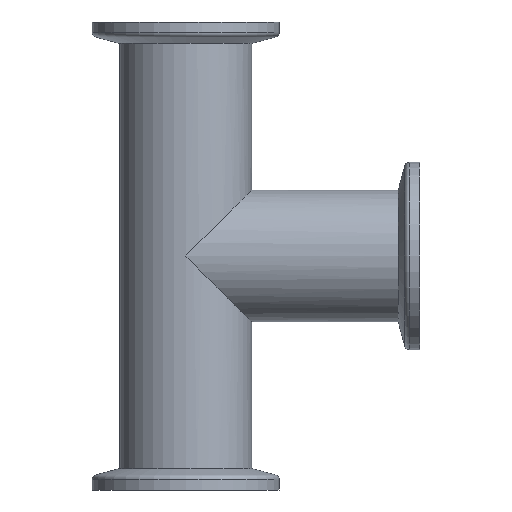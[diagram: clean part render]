
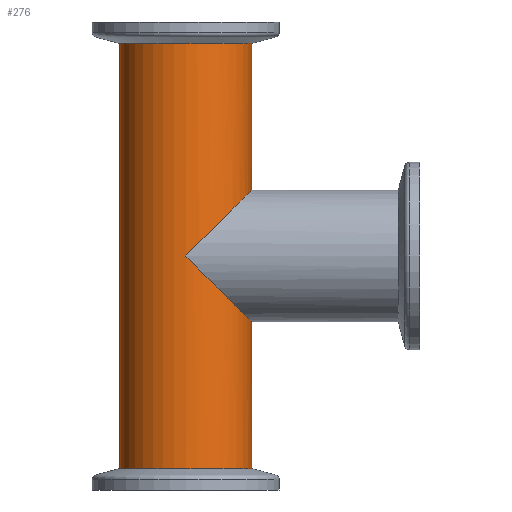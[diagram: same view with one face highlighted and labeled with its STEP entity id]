
A CAD part, front view. The second image highlights one B-rep face of the part: STEP entity #276.
In plain terms, the highlighted cylindrical face has radius 14.1 mm (diameter 28.2 mm), a partial arc.
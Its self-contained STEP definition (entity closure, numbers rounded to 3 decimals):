
#15 = DIRECTION ( 'NONE',  ( 0., 0., 1. ) ) ;
#51 = AXIS2_PLACEMENT_3D ( 'NONE', #778, #1749, #1324 ) ;
#69 = CARTESIAN_POINT ( 'NONE',  ( 8.26, -14.1, -41.74 ) ) ;
#84 = DIRECTION ( 'NONE',  ( 0., 0., -1. ) ) ;
#109 = VECTOR ( 'NONE', #1012, 1000. ) ;
#114 = CYLINDRICAL_SURFACE ( 'NONE', #51, 14.1 ) ;
#139 =( BOUNDED_CURVE ( )  B_SPLINE_CURVE ( 3, ( #1042, #69, #1741, #640 ),
 .UNSPECIFIED., .F., .F. ) 
 B_SPLINE_CURVE_WITH_KNOTS ( ( 4, 4 ),
 ( 4.712, 6.283 ),
 .UNSPECIFIED. ) 
 CURVE ( )  GEOMETRIC_REPRESENTATION_ITEM ( )  RATIONAL_B_SPLINE_CURVE ( ( 1., 0.805, 0.805, 1. ) ) 
 REPRESENTATION_ITEM ( '' )  );
#233 = CARTESIAN_POINT ( 'NONE',  ( 14.1, 0., -64.1 ) ) ;
#245 = ORIENTED_EDGE ( 'NONE', *, *, #677, .T. ) ;
#246 = EDGE_CURVE ( 'NONE', #589, #493, #400, .T. ) ;
#255 =( BOUNDED_CURVE ( )  B_SPLINE_CURVE ( 3, ( #405, #1359, #804, #1773 ),
 .UNSPECIFIED., .F., .F. ) 
 B_SPLINE_CURVE_WITH_KNOTS ( ( 4, 4 ),
 ( 3.142, 4.712 ),
 .UNSPECIFIED. ) 
 CURVE ( )  GEOMETRIC_REPRESENTATION_ITEM ( )  RATIONAL_B_SPLINE_CURVE ( ( 1., 0.805, 0.805, 1. ) ) 
 REPRESENTATION_ITEM ( '' )  );
#275 = VERTEX_POINT ( 'NONE', #233 ) ;
#276 = ADVANCED_FACE ( 'NONE', ( #1640 ), #114, .T. ) ;
#335 = CARTESIAN_POINT ( 'NONE',  ( 14.1, 0., -35.9 ) ) ;
#356 = VECTOR ( 'NONE', #544, 1000. ) ;
#380 = EDGE_CURVE ( 'NONE', #631, #493, #1405, .T. ) ;
#400 = CIRCLE ( 'NONE', #1622, 14.1 ) ;
#405 = CARTESIAN_POINT ( 'NONE',  ( 14.1, 0., -64.1 ) ) ;
#438 = ORIENTED_EDGE ( 'NONE', *, *, #1310, .T. ) ;
#463 = CIRCLE ( 'NONE', #1520, 14.1 ) ;
#475 = DIRECTION ( 'NONE',  ( 1., 0., 0. ) ) ;
#477 = LINE ( 'NONE', #1006, #109 ) ;
#490 = CARTESIAN_POINT ( 'NONE',  ( 0., 0., -3.5 ) ) ;
#493 = VERTEX_POINT ( 'NONE', #605 ) ;
#544 = DIRECTION ( 'NONE',  ( 0., 0., 1. ) ) ;
#550 = CARTESIAN_POINT ( 'NONE',  ( 14.1, 0., -136.381 ) ) ;
#589 = VERTEX_POINT ( 'NONE', #1780 ) ;
#598 = VERTEX_POINT ( 'NONE', #1378 ) ;
#605 = CARTESIAN_POINT ( 'NONE',  ( -14.1, 0., -3.5 ) ) ;
#608 = CARTESIAN_POINT ( 'NONE',  ( -14.1, 0., -96.5 ) ) ;
#631 = VERTEX_POINT ( 'NONE', #608 ) ;
#640 = CARTESIAN_POINT ( 'NONE',  ( 14.1, 0., -35.9 ) ) ;
#677 = EDGE_CURVE ( 'NONE', #275, #1086, #255, .T. ) ;
#763 = CARTESIAN_POINT ( 'NONE',  ( 0., -14.1, -50. ) ) ;
#778 = CARTESIAN_POINT ( 'NONE',  ( 0., 0., -136.381 ) ) ;
#804 = CARTESIAN_POINT ( 'NONE',  ( 8.26, -14.1, -58.26 ) ) ;
#990 = CARTESIAN_POINT ( 'NONE',  ( -14.1, 0., -136.381 ) ) ;
#1006 = CARTESIAN_POINT ( 'NONE',  ( 14.1, 0., -136.381 ) ) ;
#1012 = DIRECTION ( 'NONE',  ( 0., 0., 1. ) ) ;
#1042 = CARTESIAN_POINT ( 'NONE',  ( 0., -14.1, -50. ) ) ;
#1060 = ORIENTED_EDGE ( 'NONE', *, *, #246, .T. ) ;
#1069 = ORIENTED_EDGE ( 'NONE', *, *, #1676, .T. ) ;
#1073 = LINE ( 'NONE', #550, #356 ) ;
#1086 = VERTEX_POINT ( 'NONE', #763 ) ;
#1310 = EDGE_CURVE ( 'NONE', #631, #598, #463, .T. ) ;
#1323 = DIRECTION ( 'NONE',  ( 0., 0., 1. ) ) ;
#1324 = DIRECTION ( 'NONE',  ( 1., 0., 0. ) ) ;
#1337 = DIRECTION ( 'NONE',  ( -1., 0., 0. ) ) ;
#1359 = CARTESIAN_POINT ( 'NONE',  ( 14.1, -8.26, -64.1 ) ) ;
#1378 = CARTESIAN_POINT ( 'NONE',  ( 14.1, 0., -96.5 ) ) ;
#1405 = LINE ( 'NONE', #990, #1494 ) ;
#1475 = ORIENTED_EDGE ( 'NONE', *, *, #1591, .T. ) ;
#1494 = VECTOR ( 'NONE', #15, 1000. ) ;
#1520 = AXIS2_PLACEMENT_3D ( 'NONE', #1754, #1323, #475 ) ;
#1586 = EDGE_LOOP ( 'NONE', ( #1701, #438, #1069, #245, #1636, #1475, #1060 ) ) ;
#1591 = EDGE_CURVE ( 'NONE', #1638, #589, #1073, .T. ) ;
#1622 = AXIS2_PLACEMENT_3D ( 'NONE', #490, #84, #1337 ) ;
#1636 = ORIENTED_EDGE ( 'NONE', *, *, #1794, .T. ) ;
#1638 = VERTEX_POINT ( 'NONE', #335 ) ;
#1640 = FACE_OUTER_BOUND ( 'NONE', #1586, .T. ) ;
#1676 = EDGE_CURVE ( 'NONE', #598, #275, #477, .T. ) ;
#1701 = ORIENTED_EDGE ( 'NONE', *, *, #380, .F. ) ;
#1741 = CARTESIAN_POINT ( 'NONE',  ( 14.1, -8.26, -35.9 ) ) ;
#1749 = DIRECTION ( 'NONE',  ( 0., 0., 1. ) ) ;
#1754 = CARTESIAN_POINT ( 'NONE',  ( 0., 0., -96.5 ) ) ;
#1773 = CARTESIAN_POINT ( 'NONE',  ( 0., -14.1, -50. ) ) ;
#1780 = CARTESIAN_POINT ( 'NONE',  ( 14.1, 0., -3.5 ) ) ;
#1794 = EDGE_CURVE ( 'NONE', #1086, #1638, #139, .T. ) ;
